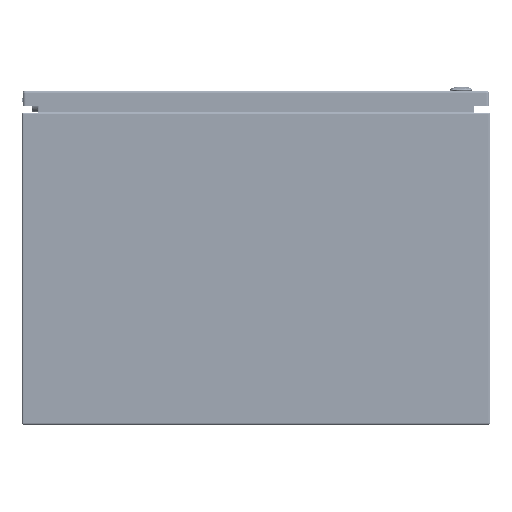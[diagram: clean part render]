
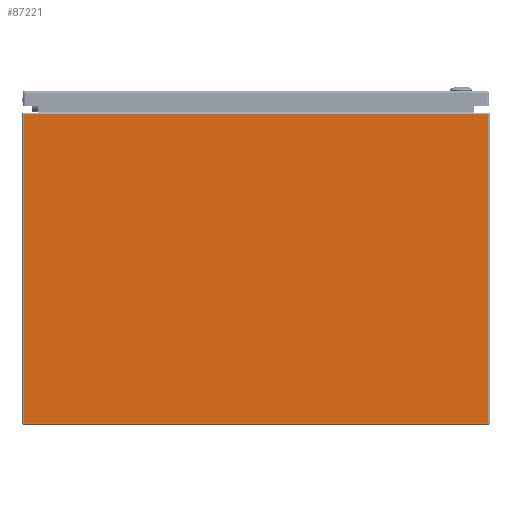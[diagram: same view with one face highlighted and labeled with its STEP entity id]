
A CAD part, front view. The second image highlights one B-rep face of the part: STEP entity #87221.
In plain terms, the highlighted planar face has unit normal (0, -1, 0).
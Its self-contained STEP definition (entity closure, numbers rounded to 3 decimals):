
#7772=LINE('',#121374,#13987);
#7779=LINE('',#121389,#13994);
#7781=LINE('',#121396,#13996);
#7783=LINE('',#121405,#13998);
#13987=VECTOR('',#100894,0.394);
#13994=VECTOR('',#100907,0.394);
#13996=VECTOR('',#100915,0.394);
#13998=VECTOR('',#100927,0.394);
#21493=FACE_OUTER_BOUND('',#26792,.T.);
#26792=EDGE_LOOP('',(#57971,#57972,#57973,#57974));
#35205=VERTEX_POINT('',#121344);
#35212=VERTEX_POINT('',#121370);
#35217=VERTEX_POINT('',#121388);
#35219=VERTEX_POINT('',#121394);
#44033=EDGE_CURVE('',#35205,#35212,#7772,.T.);
#44040=EDGE_CURVE('',#35212,#35217,#7779,.T.);
#44044=EDGE_CURVE('',#35219,#35205,#7781,.T.);
#44049=EDGE_CURVE('',#35219,#35217,#7783,.T.);
#57971=ORIENTED_EDGE('',*,*,#44033,.F.);
#57972=ORIENTED_EDGE('',*,*,#44044,.F.);
#57973=ORIENTED_EDGE('',*,*,#44049,.T.);
#57974=ORIENTED_EDGE('',*,*,#44040,.F.);
#85120=PLANE('',#93638);
#87221=ADVANCED_FACE('',(#21493),#85120,.F.);
#93638=AXIS2_PLACEMENT_3D('',#121416,#100941,#100942);
#100894=DIRECTION('',(1.,0.,0.));
#100907=DIRECTION('',(0.,0.,-1.));
#100915=DIRECTION('',(0.,0.,1.));
#100927=DIRECTION('',(1.,0.,0.));
#100941=DIRECTION('center_axis',(0.,1.,0.));
#100942=DIRECTION('ref_axis',(0.,0.,1.));
#121344=CARTESIAN_POINT('',(-11.916,-15.,15.916));
#121370=CARTESIAN_POINT('',(11.916,-15.,15.916));
#121374=CARTESIAN_POINT('',(5.979,-15.,15.916));
#121388=CARTESIAN_POINT('',(11.916,-15.,0.084));
#121389=CARTESIAN_POINT('',(11.916,-15.,8.));
#121394=CARTESIAN_POINT('',(-11.916,-15.,0.084));
#121396=CARTESIAN_POINT('',(-11.916,-15.,8.));
#121405=CARTESIAN_POINT('',(-5.958,-15.,0.084));
#121416=CARTESIAN_POINT('Origin',(0.,-15.,8.));
